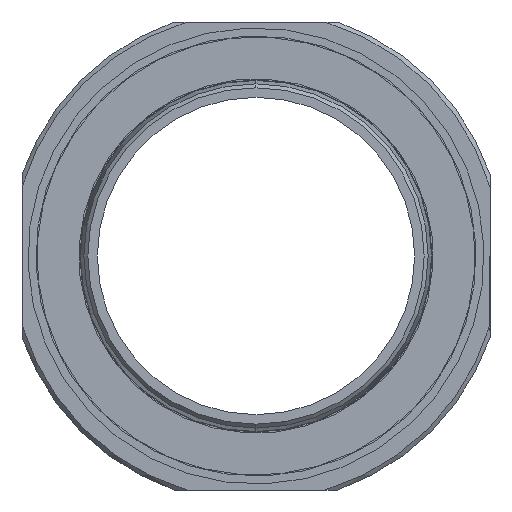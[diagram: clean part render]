
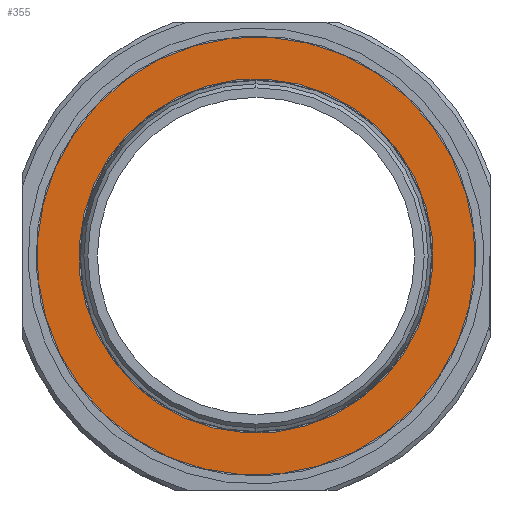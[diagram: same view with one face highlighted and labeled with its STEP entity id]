
A CAD part, left-side view. The second image highlights one B-rep face of the part: STEP entity #355.
In plain terms, the highlighted planar face has unit normal (-1, 0, 0).
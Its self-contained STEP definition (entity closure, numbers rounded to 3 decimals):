
#66 = CIRCLE ( 'NONE', #1809, 44.65 ) ;
#67 = CIRCLE ( 'NONE', #1808, 55.25 ) ;
#355 = ADVANCED_FACE ( 'NONE', ( #725, #729 ), #1979, .T. ) ;
#725 = FACE_OUTER_BOUND ( 'NONE', #1923, .T. ) ;
#729 = FACE_BOUND ( 'NONE', #2004, .T. ) ;
#1346 = CARTESIAN_POINT ( 'NONE',  ( -510., 0., 0. ) ) ;
#1347 = DIRECTION ( 'NONE',  ( -1., 0., 0. ) ) ;
#1348 = DIRECTION ( 'NONE',  ( 0., 0.28, 0.96 ) ) ;
#1356 = CARTESIAN_POINT ( 'NONE',  ( -510., 0., 0. ) ) ;
#1357 = DIRECTION ( 'NONE',  ( -1., 0., 0. ) ) ;
#1358 = DIRECTION ( 'NONE',  ( 0., 0.28, 0.96 ) ) ;
#1363 = CARTESIAN_POINT ( 'NONE',  ( -510., 0., 0. ) ) ;
#1364 = DIRECTION ( 'NONE',  ( -1., 0., 0. ) ) ;
#1365 = DIRECTION ( 'NONE',  ( 0., 0.28, 0.96 ) ) ;
#1366 = CARTESIAN_POINT ( 'NONE',  ( -510., 0., 0. ) ) ;
#1367 = DIRECTION ( 'NONE',  ( -1., 0., 0. ) ) ;
#1368 = DIRECTION ( 'NONE',  ( 0., 0.28, 0.96 ) ) ;
#1515 = AXIS2_PLACEMENT_3D ( 'NONE', #1967, #1964, #1963 ) ;
#1569 = CARTESIAN_POINT ( 'NONE',  ( -510., 12.519, 42.859 ) ) ;
#1580 = CARTESIAN_POINT ( 'NONE',  ( -510., 15.491, 53.034 ) ) ;
#1597 = CARTESIAN_POINT ( 'NONE',  ( -510., -15.491, -53.034 ) ) ;
#1604 = CARTESIAN_POINT ( 'NONE',  ( -510., -12.519, -42.859 ) ) ;
#1727 = CIRCLE ( 'NONE', #1804, 44.65 ) ;
#1736 = CIRCLE ( 'NONE', #1806, 55.25 ) ;
#1804 = AXIS2_PLACEMENT_3D ( 'NONE', #1346, #1347, #1348 ) ;
#1806 = AXIS2_PLACEMENT_3D ( 'NONE', #1356, #1357, #1358 ) ;
#1808 = AXIS2_PLACEMENT_3D ( 'NONE', #1363, #1364, #1365 ) ;
#1809 = AXIS2_PLACEMENT_3D ( 'NONE', #1366, #1367, #1368 ) ;
#1923 = EDGE_LOOP ( 'NONE', ( #2255, #2256 ) ) ;
#1963 = DIRECTION ( 'NONE',  ( 0., 0.28, 0.96 ) ) ;
#1964 = DIRECTION ( 'NONE',  ( -1., 0., 0. ) ) ;
#1967 = CARTESIAN_POINT ( 'NONE',  ( -510., 0., 0. ) ) ;
#1979 = PLANE ( 'NONE',  #1515 ) ;
#2004 = EDGE_LOOP ( 'NONE', ( #2257, #2258 ) ) ;
#2088 = VERTEX_POINT ( 'NONE', #1569 ) ;
#2102 = VERTEX_POINT ( 'NONE', #1580 ) ;
#2121 = VERTEX_POINT ( 'NONE', #1597 ) ;
#2129 = VERTEX_POINT ( 'NONE', #1604 ) ;
#2255 = ORIENTED_EDGE ( 'NONE', *, *, #2447, .T. ) ;
#2256 = ORIENTED_EDGE ( 'NONE', *, *, #2443, .T. ) ;
#2257 = ORIENTED_EDGE ( 'NONE', *, *, #2440, .F. ) ;
#2258 = ORIENTED_EDGE ( 'NONE', *, *, #2448, .F. ) ;
#2440 = EDGE_CURVE ( 'NONE', #2129, #2088, #1727, .T. ) ;
#2443 = EDGE_CURVE ( 'NONE', #2102, #2121, #1736, .T. ) ;
#2447 = EDGE_CURVE ( 'NONE', #2121, #2102, #67, .T. ) ;
#2448 = EDGE_CURVE ( 'NONE', #2088, #2129, #66, .T. ) ;
